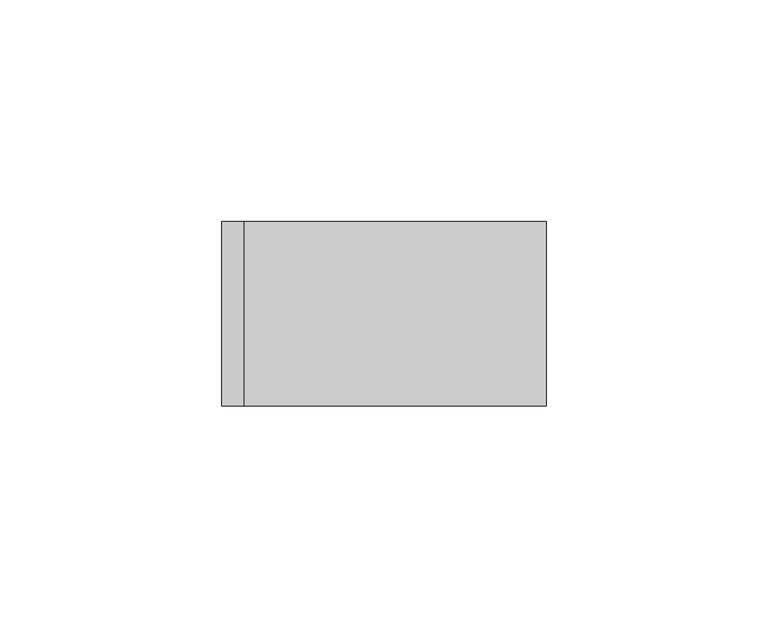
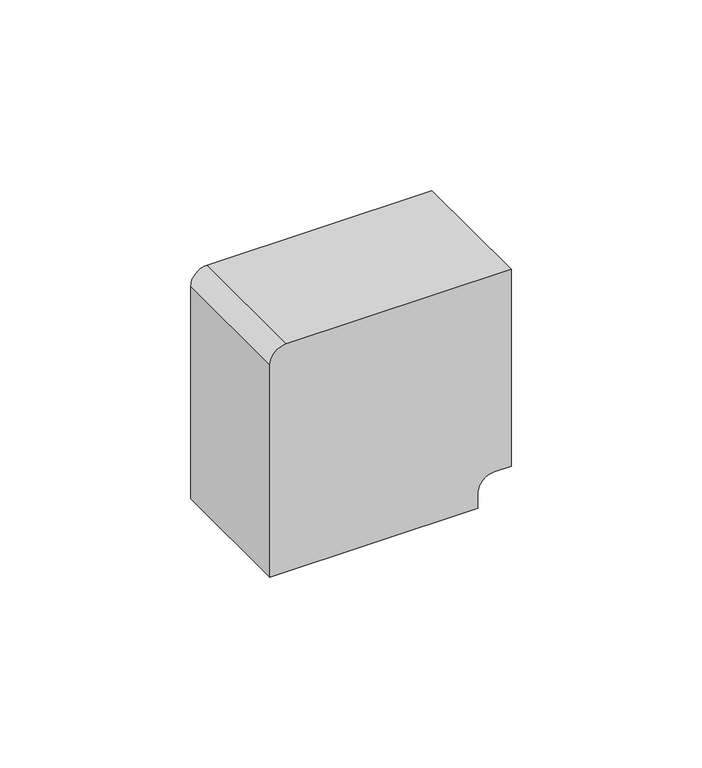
"""IFC4 building model written with IfcOpenShell, lengths in millimetres: proxy geometry, Поворот_на_90_гр.КМП : Поворот на 90 гр. КМП 60x40."""

import ifcopenshell
import ifcopenshell.guid

model = None  # the IFC model being written
_history = None  # IfcOwnerHistory: only IFC2X3 demands one
_inside = {}  # id of a spatial element -> (the spatial element, [elements in it])
_under = {}  # id of a project, library or spatial element -> (it, [spatial elements below it])
_declared = {}  # id of a project -> (the project, [libraries it declares])
_typed = {}  # id of a type object -> (the type object, [elements of that type])
_made_of = {}  # id of a material, layer set ... -> (it, [elements and type objects made of it])


def new_model(schema):
    """Start an empty IFC model of exactly this schema.

    Asked for "IFC4X3", IfcOpenShell would pick the latest addendum, in which some entities
    have other attributes; the version numbers below select the first issue.
    IFC2X3 requires an IfcOwnerHistory on every rooted entity: one is made here for all.
    """
    global model, _history
    if schema == "IFC4X3":
        model = ifcopenshell.file(schema_version=(4, 3, 0, 0))
    else:
        model = ifcopenshell.file(schema=schema)
    _inside.clear()
    _under.clear()
    _declared.clear()
    _typed.clear()
    _made_of.clear()
    _history = None
    if model.schema == "IFC2X3":
        org = make("IfcOrganization", Name="unknown")
        user = make(
            "IfcPersonAndOrganization",
            ThePerson=make("IfcPerson", FamilyName="unknown"),
            TheOrganization=org,
        )
        app = make(
            "IfcApplication",
            ApplicationDeveloper=org,
            Version="unknown",
            ApplicationFullName="unknown",
            ApplicationIdentifier="unknown",
        )
        _history = make(
            "IfcOwnerHistory",
            OwningUser=user,
            OwningApplication=app,
            ChangeAction="ADDED",
            CreationDate=0,
        )
    return model


def make(cls, **values):
    """One entity of the class cls with the attributes given. An attribute that is None is left unset."""
    return model.create_entity(
        cls, **{name: value for name, value in values.items() if value is not None}
    )


def rooted(cls, **values):
    """An entity with a GlobalId (a new one), such as an element, a storey or a relation."""
    return make(cls, GlobalId=ifcopenshell.guid.new(), OwnerHistory=_history, **values)


def si_unit(unit_type, name, prefix=None):
    """IfcSIUnit, for example si_unit("LENGTHUNIT", "METRE", prefix="MILLI")."""
    return make("IfcSIUnit", UnitType=unit_type, Prefix=prefix, Name=name)


def assignment(units):
    """IfcUnitAssignment: the units of a project."""
    return None if units is None else make("IfcUnitAssignment", Units=units)


def point(xyz):
    """IfcCartesianPoint."""
    return None if xyz is None else make("IfcCartesianPoint", Coordinates=xyz)


def direction(xyz):
    """IfcDirection."""
    return None if xyz is None else make("IfcDirection", DirectionRatios=xyz)


def frame(location, z_axis=None, x_axis=None):
    """IfcAxis2Placement3D, a coordinate frame: its origin and axes. An axis left out is left unset."""
    return make(
        "IfcAxis2Placement3D",
        Location=point(location),
        Axis=direction(z_axis),
        RefDirection=direction(x_axis),
    )


def frame_2d(location, x_axis=None):
    """IfcAxis2Placement2D, a coordinate frame in the plane: its origin and x axis."""
    return make(
        "IfcAxis2Placement2D", Location=point(location), RefDirection=direction(x_axis)
    )


def origin():
    """The frame at (0, 0, 0) with its axes left unset."""
    return frame((0.0, 0.0, 0.0))


def place(relative_to, where):
    """IfcLocalPlacement: puts the frame where relative to a parent placement (None: the world)."""
    return make(
        "IfcLocalPlacement", PlacementRelTo=relative_to, RelativePlacement=where
    )


def context(
    kind, dimensions, precision=None, world=None, true_north=None, identifier=None
):
    """IfcGeometricRepresentationContext, for example the 3D "Model" context."""
    return make(
        "IfcGeometricRepresentationContext",
        ContextIdentifier=identifier,
        ContextType=kind,
        CoordinateSpaceDimension=dimensions,
        Precision=precision,
        WorldCoordinateSystem=world,
        TrueNorth=true_north,
    )


def project(units=None, contexts=None):
    """IfcProject with its units and contexts."""
    return rooted(
        "IfcProject",
        Name="project",
        RepresentationContexts=contexts,
        UnitsInContext=assignment(units),
    )


def spatial(cls, under=None, at=None, **own):
    """A site, building, storey or space (cls), placed at a placement, below another one or the project."""
    s = rooted(cls, ObjectPlacement=at, **own)
    if under is not None:
        _under.setdefault(under.id(), (under, []))[1].append(s)
    return s


def polyline(points):
    """IfcPolyline through the points."""
    return make("IfcPolyline", Points=[point(p) for p in points])


def circle_curve(where, radius):
    """IfcCircle in the frame where."""
    return make("IfcCircle", Position=where, Radius=radius)


def trimmed(basis, trim1, trim2, sense, master):
    """IfcTrimmedCurve: the piece of a basis curve between two trims."""
    return make(
        "IfcTrimmedCurve",
        BasisCurve=basis,
        Trim1=trim1,
        Trim2=trim2,
        SenseAgreement=sense,
        MasterRepresentation=master,
    )


def segment(curve, same_sense, transition):
    """IfcCompositeCurveSegment."""
    return make(
        "IfcCompositeCurveSegment",
        Transition=transition,
        SameSense=same_sense,
        ParentCurve=curve,
    )


def composite_curve(segments, self_intersect=None):
    """IfcCompositeCurve: segments joined end to end."""
    return make("IfcCompositeCurve", Segments=segments, SelfIntersect=self_intersect)


def outline(outer, holes=None, kind="AREA"):
    """IfcArbitraryClosedProfileDef: a profile drawn as a closed curve; with holes, ...WithVoids."""
    if holes is None:
        return make("IfcArbitraryClosedProfileDef", ProfileType=kind, OuterCurve=outer)
    return make(
        "IfcArbitraryProfileDefWithVoids",
        ProfileType=kind,
        OuterCurve=outer,
        InnerCurves=holes,
    )


def extrude(swept, where, along, depth):
    """IfcExtrudedAreaSolid: the profile swept, set in the frame where, extruded along a direction by depth."""
    return make(
        "IfcExtrudedAreaSolid",
        SweptArea=swept,
        Position=where,
        ExtrudedDirection=direction(along),
        Depth=depth,
    )


def shape(context_of_items, identifier, shape_type, items):
    """IfcShapeRepresentation: the items that make up one representation, for example the "Body"."""
    return make(
        "IfcShapeRepresentation",
        ContextOfItems=context_of_items,
        RepresentationIdentifier=identifier,
        RepresentationType=shape_type,
        Items=items,
    )


def source(mapping_origin, context_of_items, identifier, shape_type, items):
    """IfcRepresentationMap: a shape defined once, which mapped items show again and again."""
    return make(
        "IfcRepresentationMap",
        MappingOrigin=mapping_origin,
        MappedRepresentation=shape(context_of_items, identifier, shape_type, items),
    )


def transform(
    local_origin,
    x_axis=None,
    y_axis=None,
    z_axis=None,
    scale=None,
    scale2=None,
    scale3=None,
    uniform=True,
):
    """IfcCartesianTransformationOperator3D, or its non-uniform kind. x_axis, y_axis, z_axis: its Axis1, 2, 3."""
    if uniform:
        return make(
            "IfcCartesianTransformationOperator3D",
            Axis1=direction(x_axis),
            Axis2=direction(y_axis),
            LocalOrigin=point(local_origin),
            Scale=scale,
            Axis3=direction(z_axis),
        )
    return make(
        "IfcCartesianTransformationOperator3DnonUniform",
        Axis1=direction(x_axis),
        Axis2=direction(y_axis),
        LocalOrigin=point(local_origin),
        Scale=scale,
        Axis3=direction(z_axis),
        Scale2=scale2,
        Scale3=scale3,
    )


def mapped(mapping_source, mapping_target):
    """IfcMappedItem: shows the shape of a source again, moved by a transform."""
    return make(
        "IfcMappedItem", MappingSource=mapping_source, MappingTarget=mapping_target
    )


def made_of(thing, what):
    """Note that an element or type object is made of a material, layer set ...; save() writes the relation."""
    if what is not None:
        _made_of.setdefault(what.id(), (what, []))[1].append(thing)
    return thing


def element(
    cls,
    number,
    at=None,
    inside=None,
    cuts=None,
    type_object=None,
    material=None,
    context=None,
    identifier="Body",
    shape_type=None,
    held_by="IfcProductDefinitionShape",
    body=None,
    shapes=None,
    **own,
):
    """One element of the class cls, such as IfcWall. Its Tag is "e" and its number.

    at: its placement. inside: the storey or other place that contains it. cuts: it is an
    opening in that element (IfcRelVoidsElement). A single representation is given by context,
    identifier, shape_type and body (its items); several are given by shapes. held_by: the class
    of the entity that holds the representations. save() writes the other relations.
    """
    e = rooted(cls, Tag="e%d" % number, ObjectPlacement=at, **own)
    if body is not None:
        shapes = [shape(context, identifier, shape_type, body)]
    if shapes is not None:
        e.Representation = make(held_by, Representations=shapes)
    if inside is not None:
        _inside.setdefault(inside.id(), (inside, []))[1].append(e)
    if cuts is not None:
        rooted(
            "IfcRelVoidsElement", RelatingBuildingElement=cuts, RelatedOpeningElement=e
        )
    if type_object is not None:
        _typed.setdefault(type_object.id(), (type_object, []))[1].append(e)
    return made_of(e, material)


def aggregate(whole, parts):
    """IfcRelAggregates: a whole, such as a stair, and the parts it consists of."""
    return rooted("IfcRelAggregates", RelatingObject=whole, RelatedObjects=parts)


def save(model, path):
    """Write the relations noted so far, then the file.

    IfcRelAggregates (storeys below a building ...), IfcRelContainedInSpatialStructure (elements
    in a storey), IfcRelDefinesByType, IfcRelAssociatesMaterial and IfcRelDeclares: one each for
    every whole, place, type object, material and project.
    """
    for whole, parts in _under.values():
        aggregate(whole, parts)
    for where, things in _inside.values():
        rooted(
            "IfcRelContainedInSpatialStructure",
            RelatedElements=things,
            RelatingStructure=where,
        )
    for kind, things in _typed.values():
        rooted("IfcRelDefinesByType", RelatedObjects=things, RelatingType=kind)
    for what, things in _made_of.values():
        rooted("IfcRelAssociatesMaterial", RelatedObjects=things, RelatingMaterial=what)
    for by, libraries in _declared.values():
        rooted("IfcRelDeclares", RelatingContext=by, RelatedDefinitions=libraries)
    model.write(path)


def generic_models_96342432(model_context):
    return source(origin(), model_context, "Body", "SweptSolid", [
        extrude(outline(composite_curve([segment(polyline([(2.0580612, -10.0), (7.0580612, -10.0)]), True, "CONTINUOUS"), segment(trimmed(circle_curve(frame_2d((7.0580612, -5.0)), 5.0), [point((7.0580612, -10.0))], [point((12.0580612, -5.0))], True, "CARTESIAN"), True, "CONTINUOUS"), segment(polyline([(12.0580612, -5.0), (12.0580612, 0.0), (75.0580612, 0.0), (75.0580612, -67.9954444)]), True, "CONTINUOUS"), segment(trimmed(circle_curve(frame_2d((70.0535056, -67.9954444)), 5.0045556), [point((75.0580612, -67.9954444))], [point((70.0535056, -73.0))], False, "CARTESIAN"), True, "CONTINUOUS"), segment(polyline([(70.0535056, -73.0), (2.0580612, -73.0), (2.0580612, -10.0)]), True, "CONTINUOUS")], self_intersect=False)), frame((0.0, -41.5, 0.0), z_axis=(0.0, 1.0, 0.0), x_axis=(0.0, 0.0, 1.0)), (0.0, 0.0, 1.0), 41.5),
    ])


if __name__ == "__main__":
    model = new_model("IFC4")
    model_context = context("Model", 3, world=origin())
    ifc_project = project(units=[si_unit("LENGTHUNIT", "METRE", prefix="MILLI")], contexts=[model_context])
    site = spatial("IfcSite", under=ifc_project)
    building = spatial("IfcBuilding", under=site)
    placement = place(None, origin())
    generic_models_shape = generic_models_96342432(model_context)
    element("IfcBuildingElementProxy", 1, Name="Поворот_на_90_гр.КМП : Поворот на 90 гр. КМП 60x40", ObjectType="Поворот_на_90_гр.КМП : Поворот на 90 гр. КМП 60x40", at=placement, inside=building, context=model_context, shape_type="MappedRepresentation", body=[
        mapped(generic_models_shape, transform((0.0, 0.0, 0.0), x_axis=(1.0, 0.0, 0.0), y_axis=(0.0, 1.0, 0.0), z_axis=(0.0, 0.0, 1.0))),
    ])
    save(model, "model.ifc")
